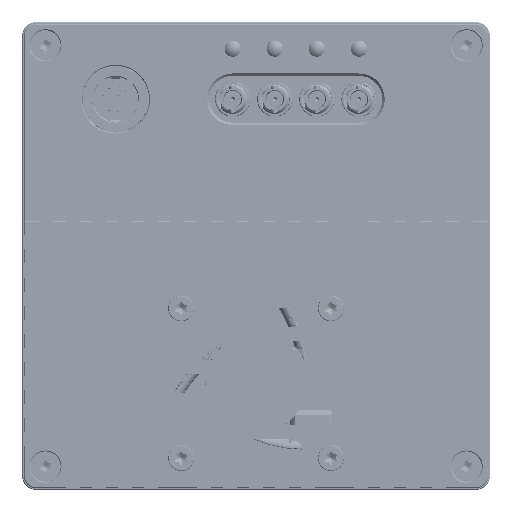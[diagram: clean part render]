
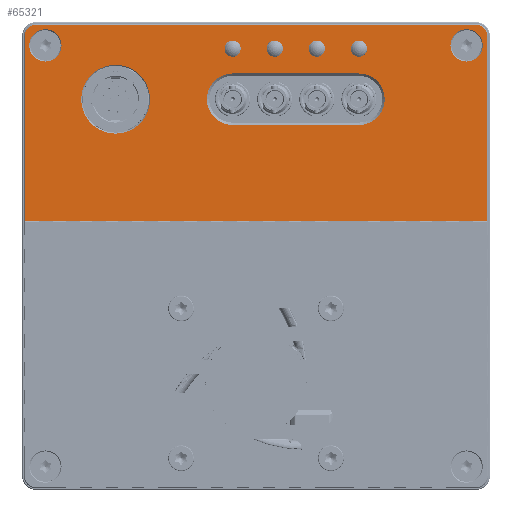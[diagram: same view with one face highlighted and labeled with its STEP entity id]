
A CAD part, front view. The second image highlights one B-rep face of the part: STEP entity #65321.
In plain terms, the highlighted planar face has unit normal (0, -1, 0).
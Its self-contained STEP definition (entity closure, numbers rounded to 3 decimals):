
#43741=DIRECTION('',(-1.,0.,0.));
#43742=VECTOR('',#43741,98.8);
#43743=CARTESIAN_POINT('',(49.4,-53.,-7.4));
#43744=LINE('',#43743,#43742);
#44426=CARTESIAN_POINT('',(-22.,-53.,-44.3));
#44427=DIRECTION('',(0.,-1.,0.));
#44428=DIRECTION('',(-1.,0.,0.));
#44429=AXIS2_PLACEMENT_3D('',#44426,#44427,#44428);
#44434=CARTESIAN_POINT('',(-22.,-53.,-44.3));
#44435=DIRECTION('',(0.,-1.,0.));
#44436=DIRECTION('',(1.,0.,0.));
#44437=AXIS2_PLACEMENT_3D('',#44434,#44435,#44436);
#44442=CARTESIAN_POINT('',(-13.,-53.,-44.3));
#44443=DIRECTION('',(0.,-1.,0.));
#44444=DIRECTION('',(-1.,0.,0.));
#44445=AXIS2_PLACEMENT_3D('',#44442,#44443,#44444);
#44450=CARTESIAN_POINT('',(-13.,-53.,-44.3));
#44451=DIRECTION('',(0.,-1.,0.));
#44452=DIRECTION('',(1.,0.,0.));
#44453=AXIS2_PLACEMENT_3D('',#44450,#44451,#44452);
#44458=CARTESIAN_POINT('',(-4.,-53.,-44.3));
#44459=DIRECTION('',(0.,-1.,0.));
#44460=DIRECTION('',(-1.,0.,0.));
#44461=AXIS2_PLACEMENT_3D('',#44458,#44459,#44460);
#44466=CARTESIAN_POINT('',(-4.,-53.,-44.3));
#44467=DIRECTION('',(0.,-1.,0.));
#44468=DIRECTION('',(1.,0.,0.));
#44469=AXIS2_PLACEMENT_3D('',#44466,#44467,#44468);
#44474=CARTESIAN_POINT('',(5.,-53.,-44.3));
#44475=DIRECTION('',(0.,-1.,0.));
#44476=DIRECTION('',(-1.,0.,0.));
#44477=AXIS2_PLACEMENT_3D('',#44474,#44475,#44476);
#44482=CARTESIAN_POINT('',(5.,-53.,-44.3));
#44483=DIRECTION('',(0.,-1.,0.));
#44484=DIRECTION('',(1.,0.,0.));
#44485=AXIS2_PLACEMENT_3D('',#44482,#44483,#44484);
#44490=CARTESIAN_POINT('',(5.,-53.,-33.5));
#44491=DIRECTION('',(0.,1.,0.));
#44492=DIRECTION('',(0.,0.,1.));
#44493=AXIS2_PLACEMENT_3D('',#44490,#44491,#44492);
#44498=DIRECTION('',(1.,0.,0.));
#44499=VECTOR('',#44498,27.);
#44500=CARTESIAN_POINT('',(-22.,-53.,
-28.));
#44501=LINE('',#44500,#44499);
#44505=CARTESIAN_POINT('',(-22.,-53.,-33.5));
#44506=DIRECTION('',(0.,1.,0.));
#44507=DIRECTION('',(0.,0.,-1.));
#44508=AXIS2_PLACEMENT_3D('',#44505,#44506,#44507);
#44513=DIRECTION('',(-1.,0.,0.));
#44514=VECTOR('',#44513,27.);
#44515=CARTESIAN_POINT('',(5.,-53.,
-39.));
#44516=LINE('',#44515,#44514);
#44520=CARTESIAN_POINT('',(30.,-53.,-33.5));
#44521=DIRECTION('',(0.,1.,0.));
#44522=DIRECTION('',(1.,0.,0.));
#44523=AXIS2_PLACEMENT_3D('',#44520,#44521,#44522);
#44528=CARTESIAN_POINT('',(30.,-53.,-33.5));
#44529=DIRECTION('',(0.,1.,0.));
#44530=DIRECTION('',(-1.,0.,0.));
#44531=AXIS2_PLACEMENT_3D('',#44528,#44529,#44530);
#44536=CARTESIAN_POINT('',(-45.,-53.,-45.));
#44537=DIRECTION('',(0.,1.,0.));
#44538=DIRECTION('',(1.,0.,0.));
#44539=AXIS2_PLACEMENT_3D('',#44536,#44537,#44538);
#44544=CARTESIAN_POINT('',(-45.,-53.,-45.));
#44545=DIRECTION('',(0.,1.,0.));
#44546=DIRECTION('',(-1.,0.,0.));
#44547=AXIS2_PLACEMENT_3D('',#44544,#44545,#44546);
#44552=CARTESIAN_POINT('',(45.,-53.,-45.));
#44553=DIRECTION('',(0.,1.,0.));
#44554=DIRECTION('',(1.,0.,0.));
#44555=AXIS2_PLACEMENT_3D('',#44552,#44553,#44554);
#44560=CARTESIAN_POINT('',(45.,-53.,-45.));
#44561=DIRECTION('',(0.,1.,0.));
#44562=DIRECTION('',(-1.,0.,0.));
#44563=AXIS2_PLACEMENT_3D('',#44560,#44561,#44562);
#44568=DIRECTION('',(0.,0.,-1.));
#44569=VECTOR('',#44568,39.6);
#44570=CARTESIAN_POINT('',(-49.4,-53.,-7.4));
#44571=LINE('',#44570,#44569);
#44575=DIRECTION('',(0.,0.,1.));
#44576=VECTOR('',#44575,39.6);
#44577=CARTESIAN_POINT('',(49.4,-53.,
-47.));
#44578=LINE('',#44577,#44576);
#44582=CARTESIAN_POINT('',(47.,-53.,-47.));
#44583=DIRECTION('',(0.,-1.,0.));
#44584=DIRECTION('',(0.,0.,-1.));
#44585=AXIS2_PLACEMENT_3D('',#44582,#44583,#44584);
#44590=DIRECTION('',(1.,0.,0.));
#44591=VECTOR('',#44590,94.);
#44592=CARTESIAN_POINT('',(-47.,-53.,
-49.4));
#44593=LINE('',#44592,#44591);
#44597=CARTESIAN_POINT('',(-47.,-53.,-47.));
#44598=DIRECTION('',(0.,-1.,0.));
#44599=DIRECTION('',(-1.,0.,0.));
#44600=AXIS2_PLACEMENT_3D('',#44597,#44598,#44599);
#50605=CARTESIAN_POINT('',(3.515,-53.,-44.3));
#50606=CARTESIAN_POINT('',(6.485,-53.,-44.3));
#50607=VERTEX_POINT('',#50605);
#50608=VERTEX_POINT('',#50606);
#50617=CARTESIAN_POINT('',(-5.485,-53.,-44.3));
#50618=CARTESIAN_POINT('',(-2.515,-53.,-44.3));
#50619=VERTEX_POINT('',#50617);
#50620=VERTEX_POINT('',#50618);
#50621=CARTESIAN_POINT('',(-14.485,-53.,-44.3));
#50622=CARTESIAN_POINT('',(-11.515,-53.,-44.3));
#50623=VERTEX_POINT('',#50621);
#50624=VERTEX_POINT('',#50622);
#50625=CARTESIAN_POINT('',(-23.485,-53.,-44.3));
#50626=CARTESIAN_POINT('',(-20.515,-53.,-44.3));
#50627=VERTEX_POINT('',#50625);
#50628=VERTEX_POINT('',#50626);
#50729=CARTESIAN_POINT('',(5.,-53.,-28.));
#50730=CARTESIAN_POINT('',(5.,-53.,-39.));
#50731=VERTEX_POINT('',#50729);
#50732=VERTEX_POINT('',#50730);
#50737=CARTESIAN_POINT('',(-22.,-53.,
-39.));
#50738=VERTEX_POINT('',#50737);
#50741=CARTESIAN_POINT('',(-22.,-53.,-28.));
#50742=VERTEX_POINT('',#50741);
#50745=CARTESIAN_POINT('',(37.35,-53.,-33.5));
#50746=CARTESIAN_POINT('',(22.65,-53.,-33.5));
#50747=VERTEX_POINT('',#50745);
#50748=VERTEX_POINT('',#50746);
#52949=CARTESIAN_POINT('',(-41.55,-53.,-45.));
#52950=CARTESIAN_POINT('',(-48.45,-53.,-45.));
#52951=VERTEX_POINT('',#52949);
#52952=VERTEX_POINT('',#52950);
#52957=CARTESIAN_POINT('',(48.45,-53.,-45.));
#52958=CARTESIAN_POINT('',(41.55,-53.,-45.));
#52959=VERTEX_POINT('',#52957);
#52960=VERTEX_POINT('',#52958);
#53051=CARTESIAN_POINT('',(49.4,-53.,-7.4));
#53052=VERTEX_POINT('',#53051);
#53055=CARTESIAN_POINT('',(-49.4,-53.,-7.4));
#53056=CARTESIAN_POINT('',(-49.4,-53.,
-47.));
#53057=VERTEX_POINT('',#53055);
#53058=VERTEX_POINT('',#53056);
#53063=CARTESIAN_POINT('',(-47.,-53.,-49.4));
#53064=VERTEX_POINT('',#53063);
#53067=CARTESIAN_POINT('',(47.,-53.,
-49.4));
#53068=VERTEX_POINT('',#53067);
#53071=CARTESIAN_POINT('',(49.4,-53.,-47.));
#53072=VERTEX_POINT('',#53071);
#65252=CARTESIAN_POINT('',(0.,-53.,0.));
#65253=DIRECTION('',(0.,1.,0.));
#65254=DIRECTION('',(1.,0.,0.));
#65255=AXIS2_PLACEMENT_3D('',#65252,#65253,#65254);
#65256=PLANE('',#65255);
#65258=ORIENTED_EDGE('',*,*,#65257,.F.);
#65259=ORIENTED_EDGE('',*,*,#64932,.F.);
#65261=ORIENTED_EDGE('',*,*,#65260,.F.);
#65263=ORIENTED_EDGE('',*,*,#65262,.F.);
#65265=ORIENTED_EDGE('',*,*,#65264,.F.);
#65266=ORIENTED_EDGE('',*,*,#65242,.F.);
#65267=EDGE_LOOP('',(#65258,#65259,#65261,#65263,#65265,#65266));
#65268=FACE_OUTER_BOUND('',#65267,.F.);
#65270=ORIENTED_EDGE('',*,*,#65269,.T.);
#65272=ORIENTED_EDGE('',*,*,#65271,.T.);
#65273=EDGE_LOOP('',(#65270,#65272));
#65274=FACE_BOUND('',#65273,.F.);
#65276=ORIENTED_EDGE('',*,*,#65275,.T.);
#65278=ORIENTED_EDGE('',*,*,#65277,.T.);
#65279=EDGE_LOOP('',(#65276,#65278));
#65280=FACE_BOUND('',#65279,.F.);
#65282=ORIENTED_EDGE('',*,*,#65281,.T.);
#65284=ORIENTED_EDGE('',*,*,#65283,.T.);
#65285=EDGE_LOOP('',(#65282,#65284));
#65286=FACE_BOUND('',#65285,.F.);
#65288=ORIENTED_EDGE('',*,*,#65287,.F.);
#65290=ORIENTED_EDGE('',*,*,#65289,.F.);
#65292=ORIENTED_EDGE('',*,*,#65291,.F.);
#65294=ORIENTED_EDGE('',*,*,#65293,.F.);
#65295=EDGE_LOOP('',(#65288,#65290,#65292,#65294));
#65296=FACE_BOUND('',#65295,.F.);
#65298=ORIENTED_EDGE('',*,*,#65297,.F.);
#65300=ORIENTED_EDGE('',*,*,#65299,.F.);
#65301=EDGE_LOOP('',(#65298,#65300));
#65302=FACE_BOUND('',#65301,.F.);
#65304=ORIENTED_EDGE('',*,*,#65303,.F.);
#65306=ORIENTED_EDGE('',*,*,#65305,.F.);
#65307=EDGE_LOOP('',(#65304,#65306));
#65308=FACE_BOUND('',#65307,.F.);
#65310=ORIENTED_EDGE('',*,*,#65309,.F.);
#65312=ORIENTED_EDGE('',*,*,#65311,.F.);
#65313=EDGE_LOOP('',(#65310,#65312));
#65314=FACE_BOUND('',#65313,.F.);
#65316=ORIENTED_EDGE('',*,*,#65315,.T.);
#65318=ORIENTED_EDGE('',*,*,#65317,.T.);
#65319=EDGE_LOOP('',(#65316,#65318));
#65320=FACE_BOUND('',#65319,.F.);
#65321=ADVANCED_FACE('',(#65268,#65274,#65280,#65286,#65296,#65302,#65308,
#65314,#65320),#65256,.F.);
#44430=CIRCLE('',#44429,1.485);
#44438=CIRCLE('',#44437,1.485);
#44446=CIRCLE('',#44445,1.485);
#44454=CIRCLE('',#44453,1.485);
#44462=CIRCLE('',#44461,1.485);
#44470=CIRCLE('',#44469,1.485);
#44478=CIRCLE('',#44477,1.485);
#44486=CIRCLE('',#44485,1.485);
#44494=CIRCLE('',#44493,5.5);
#44509=CIRCLE('',#44508,5.5);
#44524=CIRCLE('',#44523,7.35);
#44532=CIRCLE('',#44531,7.35);
#44540=CIRCLE('',#44539,3.45);
#44548=CIRCLE('',#44547,3.45);
#44556=CIRCLE('',#44555,3.45);
#44564=CIRCLE('',#44563,3.45);
#44586=CIRCLE('',#44585,2.4);
#44601=CIRCLE('',#44600,2.4);
#64932=EDGE_CURVE('',#53052,#53057,#43744,.T.);
#65242=EDGE_CURVE('',#53058,#53064,#44601,.T.);
#65257=EDGE_CURVE('',#53057,#53058,#44571,.T.);
#65260=EDGE_CURVE('',#53072,#53052,#44578,.T.);
#65262=EDGE_CURVE('',#53068,#53072,#44586,.T.);
#65264=EDGE_CURVE('',#53064,#53068,#44593,.T.);
#65269=EDGE_CURVE('',#50623,#50624,#44446,.T.);
#65271=EDGE_CURVE('',#50624,#50623,#44454,.T.);
#65275=EDGE_CURVE('',#50619,#50620,#44462,.T.);
#65277=EDGE_CURVE('',#50620,#50619,#44470,.T.);
#65281=EDGE_CURVE('',#50607,#50608,#44478,.T.);
#65283=EDGE_CURVE('',#50608,#50607,#44486,.T.);
#65287=EDGE_CURVE('',#50731,#50732,#44494,.T.);
#65289=EDGE_CURVE('',#50742,#50731,#44501,.T.);
#65291=EDGE_CURVE('',#50738,#50742,#44509,.T.);
#65293=EDGE_CURVE('',#50732,#50738,#44516,.T.);
#65297=EDGE_CURVE('',#50747,#50748,#44524,.T.);
#65299=EDGE_CURVE('',#50748,#50747,#44532,.T.);
#65303=EDGE_CURVE('',#52951,#52952,#44540,.T.);
#65305=EDGE_CURVE('',#52952,#52951,#44548,.T.);
#65309=EDGE_CURVE('',#52959,#52960,#44556,.T.);
#65311=EDGE_CURVE('',#52960,#52959,#44564,.T.);
#65315=EDGE_CURVE('',#50627,#50628,#44430,.T.);
#65317=EDGE_CURVE('',#50628,#50627,#44438,.T.);
